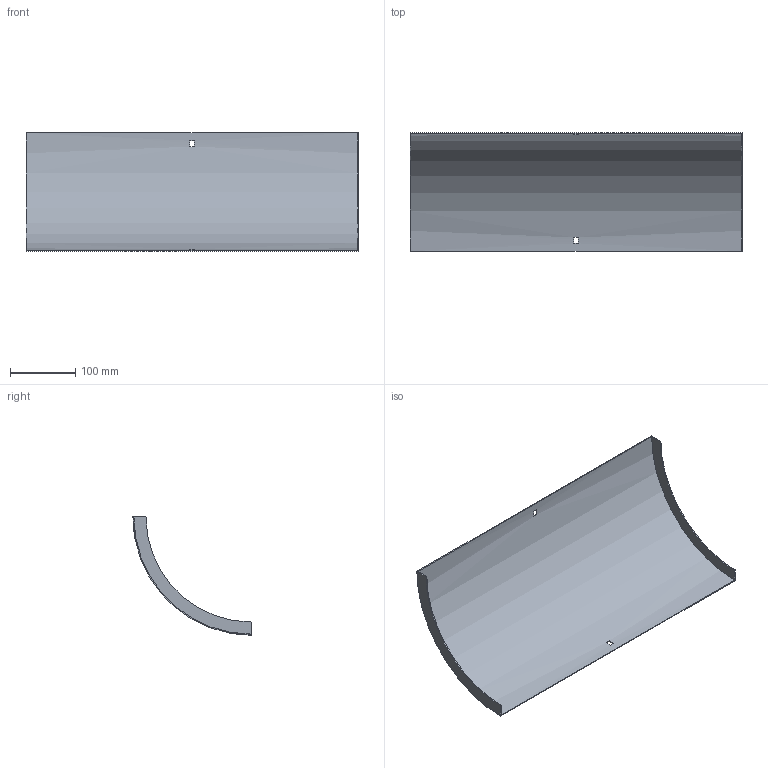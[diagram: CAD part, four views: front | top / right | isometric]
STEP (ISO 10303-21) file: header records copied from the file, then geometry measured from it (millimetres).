
FILE_DESCRIPTION (( 'STEP AP214' ), '1' );
FILE_NAME ('33N1C500.step', '2025-02-21T09:19:16', ( '' ), ( '' ), 'SwSTEP 2.0', 'SolidWorks 2023', '' );
FILE_SCHEMA (( 'AUTOMOTIVE_DESIGN' ));
Length unit declared in the file: millimetre
Products named in the file (1): 33N1C500
Bounding box: 507 x 180.5 x 180.5 mm (x, y, z)
Volume: 229350.1 mm3; surface area: 308285.4 mm2
Topology: 1 solids, 1 shells, 18 faces, 48 edges, 32 vertices
Faces by surface type: plane 14, cylinder 4
Entity records: 599 total; most frequent: DIRECTION 102, CARTESIAN_POINT 99, ORIENTED_EDGE 96, EDGE_CURVE 48, AXIS2_PLACEMENT_3D 35, VERTEX_POINT 32, LINE 32, VECTOR 32
